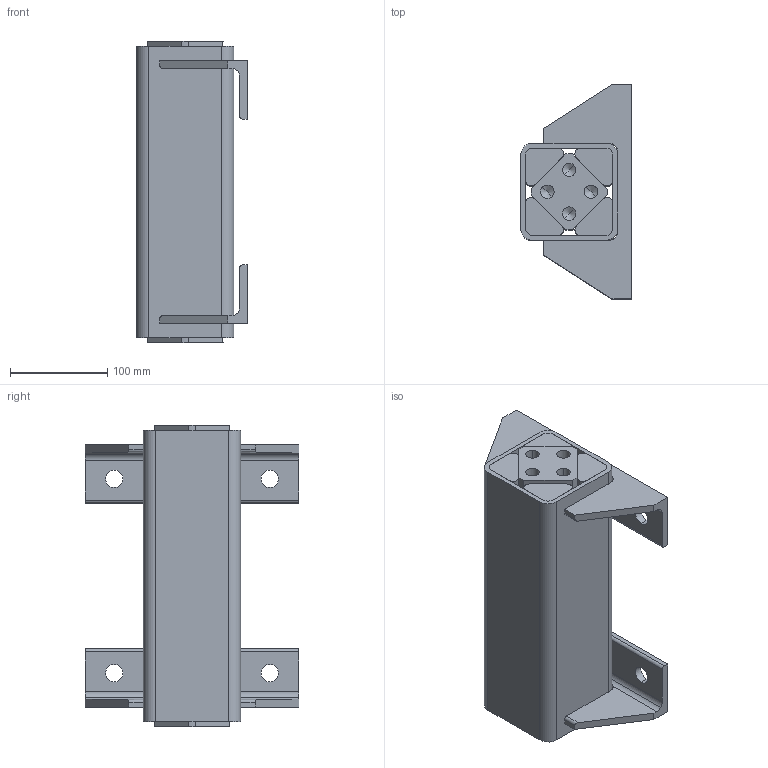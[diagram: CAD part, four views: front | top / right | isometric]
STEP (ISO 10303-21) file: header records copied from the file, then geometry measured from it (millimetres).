
FILE_DESCRIPTION((''),'2;1');
FILE_NAME('D:\ROSTA\Gummifederelemente\3D\DW-A60x300_01101003.stp','2005-02-11T03:43:31',('Administrator'),(''),'Autodesk Inventor 8','Autodesk Inventor 8','');
FILE_SCHEMA(('AUTOMOTIVE_DESIGN { 1 0 10303 214 1 1 1 1 }'));
Length unit declared in the file: millimetre
Products named in the file (5): Baugruppe4; 2.4.4811-011; 2.4.4811-012; 2.4.4811-013; 2.4.4811-014
Assembly tree (8 placements, depth 2):
  Baugruppe4
    2.4.4811-011
    2.4.4811-012
    2.4.4811-013  x2
    2.4.4811-014  x4
Bounding box: 114 x 220 x 310 mm (x, y, z)
Volume: 3165859.5 mm3; surface area: 567186.6 mm2
Topology: 8 solids, 8 shells, 144 faces, 368 edges, 232 vertices
Faces by surface type: plane 66, cylinder 46, bspline 32
Entity records: 3411 total; most frequent: CARTESIAN_POINT 1099, DIRECTION 458, ORIENTED_EDGE 452, EDGE_CURVE 226, AXIS2_PLACEMENT_3D 159, VERTEX_POINT 148, VECTOR 140, LINE 140
